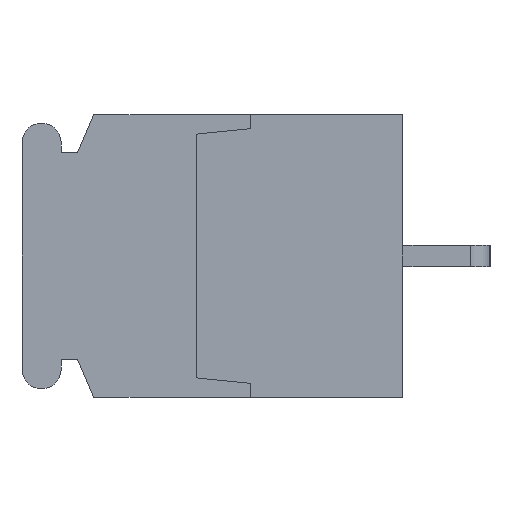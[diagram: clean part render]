
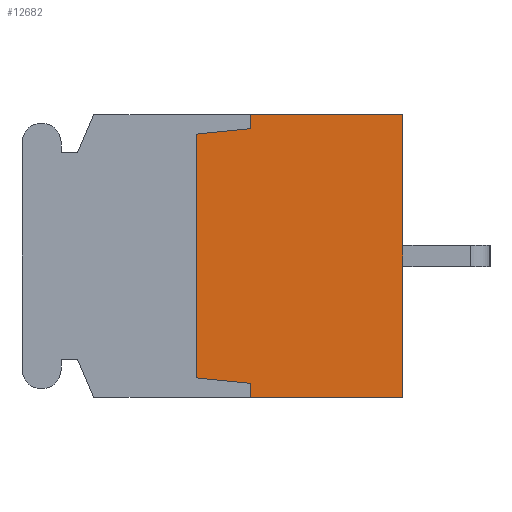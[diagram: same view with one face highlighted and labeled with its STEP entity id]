
A CAD part, left-side view. The second image highlights one B-rep face of the part: STEP entity #12682.
In plain terms, the highlighted planar face has unit normal (-1, 0, 0).
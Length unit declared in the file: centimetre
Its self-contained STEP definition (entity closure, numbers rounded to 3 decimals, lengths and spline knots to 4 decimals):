
#1583=VECTOR('',#15413,1.);
#1584=VECTOR('',#15414,1.);
#1585=VECTOR('',#15415,1.);
#1586=VECTOR('',#15416,1.);
#1587=VECTOR('',#15417,1.);
#1588=VECTOR('',#15418,1.);
#1589=VECTOR('',#15419,1.);
#1590=VECTOR('',#15420,1.);
#3011=LINE('',#19416,#1583);
#3012=LINE('',#19419,#1584);
#3013=LINE('',#19421,#1585);
#3014=LINE('',#19423,#1586);
#3015=LINE('',#19425,#1587);
#3016=LINE('',#19427,#1588);
#3017=LINE('',#19429,#1589);
#3018=LINE('',#19431,#1590);
#4355=VERTEX_POINT('',#19417);
#4356=VERTEX_POINT('',#19418);
#4357=VERTEX_POINT('',#19420);
#4358=VERTEX_POINT('',#19422);
#4359=VERTEX_POINT('',#19424);
#4360=VERTEX_POINT('',#19426);
#4361=VERTEX_POINT('',#19428);
#4362=VERTEX_POINT('',#19430);
#6252=EDGE_CURVE('',#4355,#4356,#3011,.T.);
#6253=EDGE_CURVE('',#4357,#4355,#3012,.T.);
#6254=EDGE_CURVE('',#4358,#4357,#3013,.T.);
#6255=EDGE_CURVE('',#4359,#4358,#3014,.T.);
#6256=EDGE_CURVE('',#4360,#4359,#3015,.T.);
#6257=EDGE_CURVE('',#4361,#4360,#3016,.T.);
#6258=EDGE_CURVE('',#4362,#4361,#3017,.T.);
#6259=EDGE_CURVE('',#4356,#4362,#3018,.T.);
#9440=ORIENTED_EDGE('',*,*,#6252,.F.);
#9441=ORIENTED_EDGE('',*,*,#6253,.F.);
#9442=ORIENTED_EDGE('',*,*,#6254,.F.);
#9443=ORIENTED_EDGE('',*,*,#6255,.F.);
#9444=ORIENTED_EDGE('',*,*,#6256,.F.);
#9445=ORIENTED_EDGE('',*,*,#6257,.F.);
#9446=ORIENTED_EDGE('',*,*,#6258,.F.);
#9447=ORIENTED_EDGE('',*,*,#6259,.F.);
#11158=EDGE_LOOP('',(#9440,#9441,#9442,#9443,#9444,#9445,#9446,#9447));
#11950=FACE_BOUND('',#11158,.T.);
#12682=ADVANCED_FACE('',(#11950),#13270,.F.);
#13270=PLANE('',#21668);
#15412=DIRECTION('',(1.,0.,0.));
#15413=DIRECTION('',(0.,0.,-1.));
#15414=DIRECTION('',(0.,-1.,0.));
#15415=DIRECTION('',(0.,0.,1.));
#15416=DIRECTION('',(0.,-0.995,0.1));
#15417=DIRECTION('',(0.,0.,1.));
#15418=DIRECTION('',(0.,0.995,0.1));
#15419=DIRECTION('',(0.,0.,1.));
#15420=DIRECTION('',(0.,1.,0.));
#19415=CARTESIAN_POINT('',(-1.07,0.4626,0.));
#19416=CARTESIAN_POINT('',(-1.07,0.,0.65));
#19417=CARTESIAN_POINT('',(-1.07,0.,0.65));
#19418=CARTESIAN_POINT('',(-1.07,0.,-0.65));
#19419=CARTESIAN_POINT('',(-1.07,0.7,0.65));
#19420=CARTESIAN_POINT('',(-1.07,0.7,0.65));
#19421=CARTESIAN_POINT('',(-1.07,0.7,0.585));
#19422=CARTESIAN_POINT('',(-1.07,0.7,0.585));
#19423=CARTESIAN_POINT('',(-1.07,0.95,0.56));
#19424=CARTESIAN_POINT('',(-1.07,0.95,0.56));
#19425=CARTESIAN_POINT('',(-1.07,0.95,-0.56));
#19426=CARTESIAN_POINT('',(-1.07,0.95,-0.56));
#19427=CARTESIAN_POINT('',(-1.07,0.7,-0.585));
#19428=CARTESIAN_POINT('',(-1.07,0.7,-0.585));
#19429=CARTESIAN_POINT('',(-1.07,0.7,-0.65));
#19430=CARTESIAN_POINT('',(-1.07,0.7,-0.65));
#19431=CARTESIAN_POINT('',(-1.07,0.,-0.65));
#21668=AXIS2_PLACEMENT_3D('',#19415,#15412,$);
